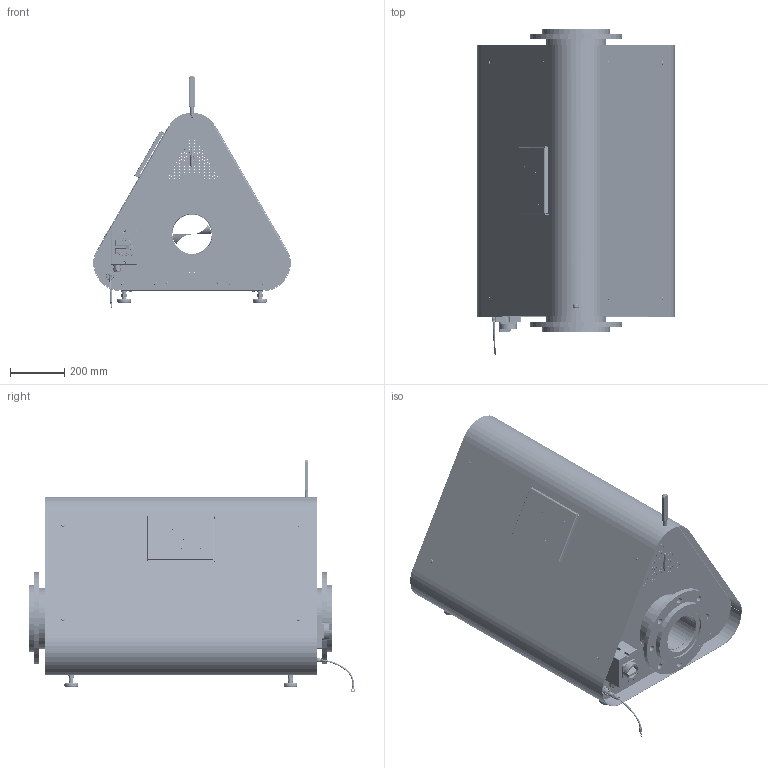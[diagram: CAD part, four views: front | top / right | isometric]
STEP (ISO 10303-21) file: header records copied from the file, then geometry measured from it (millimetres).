
FILE_DESCRIPTION(/* description */ (''),/* implementation_level */ '2;1');
FILE_NAME(/* name */ 'H Max 1_V2.1.stp',/* time_stamp */ '2024-01-12T11:42:58+01:00',/* author */ ('MassimoMaselli'),/* organization */ (''),/* preprocessor_version */ 'ST-DEVELOPER v20',/* originating_system */ 'Autodesk Inventor 2024',/* authorisation */ '');
FILE_SCHEMA (('AUTOMOTIVE_DESIGN { 1 0 10303 214 3 1 1 }'));
Products named in the file (165): ENS_PIVOT_1UNIT_TOLE-01; ELC20010; ELC39000; 2J08XX Housing Ver 1.1_filled_2J08xx Housing V1.1 Black; C40G Ver 2.0_filled; ELC27000; ELC39001; CMP12100; CON09000; Connecteur SMA femelle; Connecteur SMA male; ELC40600; ELC40700; ELC40701; VIS71500; BN 25014 - M10; BN 25014 - M8; VIS90000; STR34000; STR19002; VIS91100; VIS91101; BN 20730 3670357 flat washer M10; BN 628 1241516 hexagon nut M10; ELC16200; ELC15200; VIS70300; VIS60402; VIS60800; PIP92140; VIS00500; VIS00804; CMP03100; ELC27000_1; ELC70001; 8099392; 1010365_3Dsym; 1010363_3Dsym; 1010350_3Dsym; STR19000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
Assembly tree (320 placements, depth 9):
  ENS_PIVOT_1UNIT_TOLE-01
    ELC20010
    ELC39000
      2J08XX Housing Ver 1.1_filled_2J08xx Housing V1.1 Black
      C40G Ver 2.0_filled
      ELC27000
    ELC39001
    CMP12100  x2
    CON09000  x2
    Connecteur SMA femelle  x2
    Connecteur SMA male  x2
    ELC40600
    ELC40700
    ELC40701
    VIS71500  x33
    BN 25014 - M10  x4
    BN 25014 - M8  x2
    VIS50401  x6
    VIS90000  x4
    STR34000  x2
    STR19002  x2
    VIS91100  x4
    VIS91101  x4
      BN 20730 3670357 flat washer M10
      BN 628 1241516 hexagon nut M10
    ELC16200
    ELC11200
    ELC15200
    VIS70300  x4
    VIS60402  x4
    VIS60800  x2
    PIP92140  x2
    VIS00402  x14
    VIS00500  x9
    VIS00804  x2
    CMP03100  x24
    ELC27000_1
    ELC70001
    8099392
      1010365_3Dsym
      1010363_3Dsym
      1010350_3Dsym  x2
    STR19000
    ELC61000
      RD0801007_1_1.PRT  x2
      CASE.PRT.1
    ELC75103
      Enclosure Front PE69
      Dummy Handle 64R Assembly
      Enclosure Rear PE69_2
      ELC10300
      ELC11300
      ELC10200
      ELC11200
      H Max 1_Cable mise a terre
        H Max 1_Cable mise a terre_1
    STR39000
    STR14000
    STR14001
    STR14002
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Bounding box: 728.68 x 1199.12 x 856.39 mm (x, y, z)
Volume: 23317000.4 mm3; surface area: 12115971.3 mm2
Topology: 289 solids, 303 shells, 17433 faces, 45221 edges, 29068 vertices
Faces by surface type: plane 8938, cylinder 3656, bspline 3257, cone 926, torus 505, sphere 151
Full cylindrical faces by diameter (mm): 0.388 x1, 0.5 x1, 0.6 x8, 0.65 x8, 0.7 x8, 0.88 x2, 0.9 x3, 1 x23, 1.1 x8, 1.17 x8, 1.221 x2, 1.24 x8, 1.3 x1, 1.567 x1, 1.6 x12, 1.65 x4, 1.8 x2, 1.92 x4, 2 x261, 2.2 x2, 2.3 x2, 2.8 x3, 3 x3, 3.2 x6, 3.242 x20, 3.251 x2, 3.3 x15, 3.5 x293, 3.6 x3, 3.8 x3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
Entity records: 567824 total; most frequent: CARTESIAN_POINT 262057, ORIENTED_EDGE 64486, DIRECTION 55317, EDGE_CURVE 32255, VERTEX_POINT 20881, AXIS2_PLACEMENT_3D 18819, LINE 17679, VECTOR 17679
